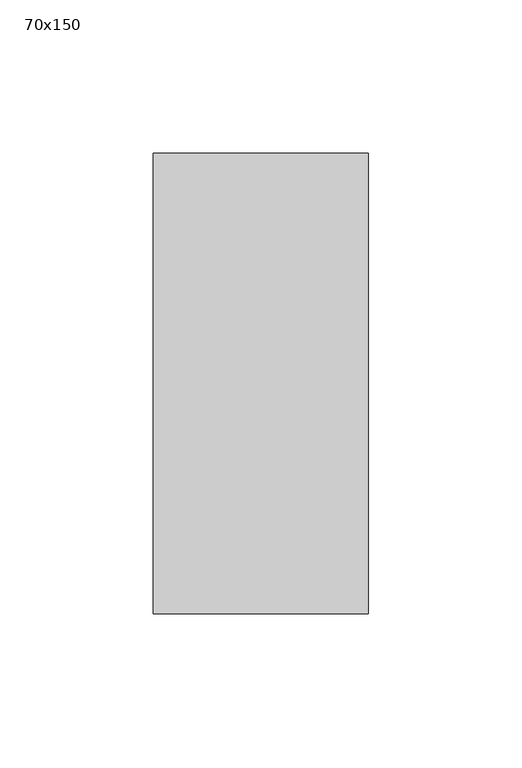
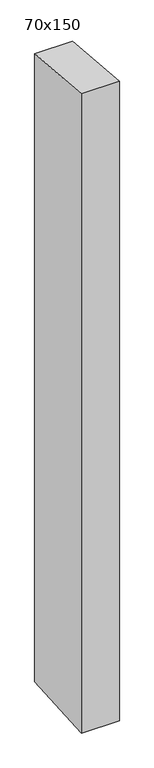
"""IFC4 building model written with IfcOpenShell, lengths in millimetres: member geometry, 長方形のマリオン : 70x150."""

from ifc_helpers import new_model, si_unit, frame, origin, place, context, project, spatial, polyline, outline, extrude, source, transform, mapped, element, save


def member_70x150_56af4ca9(model_context):
    return source(origin(), model_context, "Body", "SweptSolid", [
        extrude(outline(polyline([(-75.0, 6.0757039), (75.0, -6.0757039), (75.0, -1234.4921474), (-75.0, -1244.3868567), (-75.0, 6.0757039)])), frame((-35.0, 0.0, 0.0), z_axis=(1.0, 0.0, 0.0), x_axis=(0.0, 1.0, 0.0)), (0.0, 0.0, 1.0), 70.0),
    ])


if __name__ == "__main__":
    model = new_model("IFC4")
    model_context = context("Model", 3, world=origin())
    ifc_project = project(units=[si_unit("LENGTHUNIT", "METRE", prefix="MILLI")], contexts=[model_context])
    site = spatial("IfcSite", under=ifc_project)
    building = spatial("IfcBuilding", under=site)
    placement = place(None, origin())
    member_70x150_shape = member_70x150_56af4ca9(model_context)
    element("IfcMember", 1, ObjectType="長方形のマリオン : 70x150", at=placement, inside=building, context=model_context, shape_type="MappedRepresentation", body=[
        mapped(member_70x150_shape, transform((0.0, 0.0, 0.0), x_axis=(1.0, 0.0, 0.0), y_axis=(0.0, 1.0, 0.0), z_axis=(0.0, 0.0, 1.0))),
    ])
    save(model, "model.ifc")
